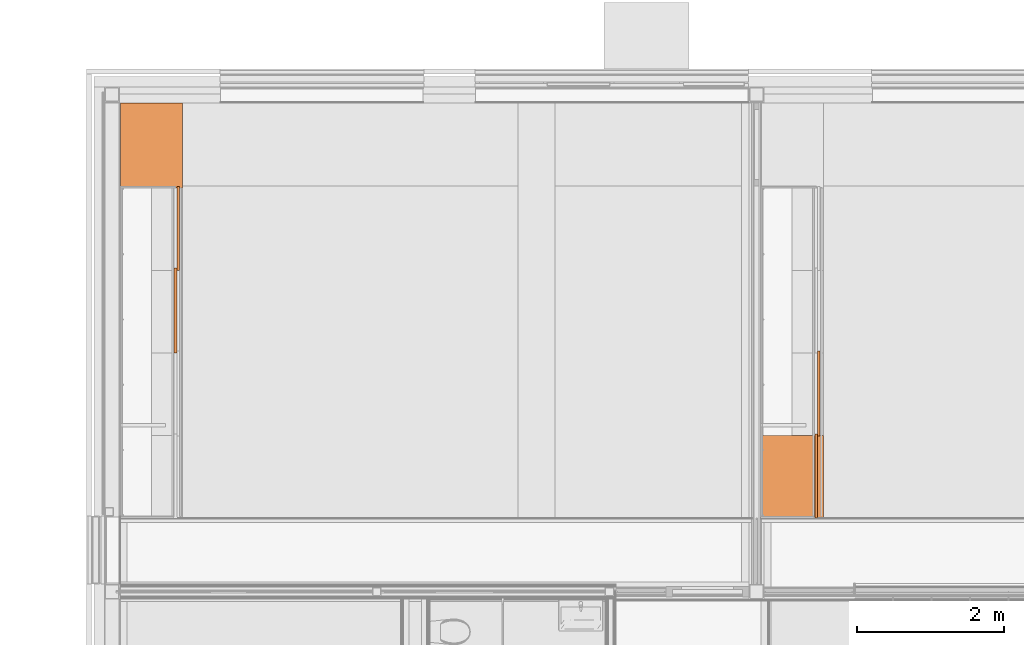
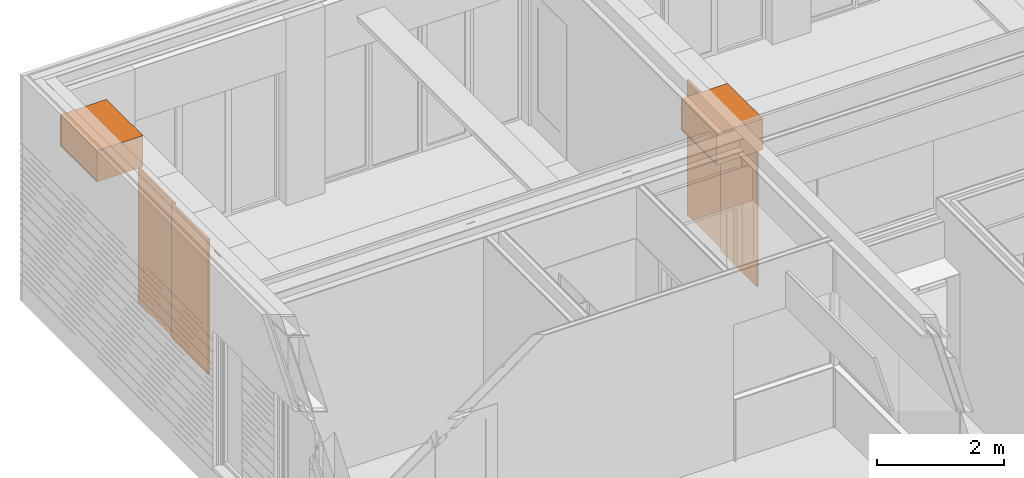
# One storey, part 135 of 165: 6 proxies.
"""IFC2X3 building model written with IfcOpenShell, lengths in millimetres."""

from ifc_helpers import new_model, entity, si_unit, converted_unit, derived_unit, money_unit, direction, frame, origin_with_axes, place, context, subcontext, project, spatial, faceted_brep, source, transform, mapped, type_object, type_shapes, element, save


model = new_model("IFC2X3")

# Units and contexts
model_context = context("Model", 3, precision=0.01, world=origin_with_axes(), true_north=direction((0.0, 1.0)))
body_context = subcontext(model_context, "Body", "Model", "MODEL_VIEW")
ifc_project = project(units=[si_unit("LENGTHUNIT", "METRE", prefix="MILLI"), si_unit("AREAUNIT", "SQUARE_METRE"), si_unit("VOLUMEUNIT", "CUBIC_METRE"), converted_unit("PLANEANGLEUNIT", "DEGREE", entity("IfcPlaneAngleMeasure", 0.0174532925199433), si_unit("PLANEANGLEUNIT", "RADIAN"), dimensions=[0, 0, 0, 0, 0, 0, 0]), money_unit("EUR"), converted_unit("TIMEUNIT", "Year", entity("IfcTimeMeasure", 31556926.0), si_unit("TIMEUNIT", "SECOND"), dimensions=[0, 0, 1, 0, 0, 0, 0]), si_unit("MASSUNIT", "GRAM", prefix="KILO"), si_unit("THERMODYNAMICTEMPERATUREUNIT", "DEGREE_CELSIUS"), si_unit("LUMINOUSINTENSITYUNIT", "LUMEN"), si_unit("ENERGYUNIT", "JOULE", prefix="MEGA"), derived_unit("THERMALCONDUCTANCEUNIT", [(si_unit("POWERUNIT", "WATT"), 1), (si_unit("LENGTHUNIT", "METRE"), -1), (si_unit("THERMODYNAMICTEMPERATUREUNIT", "KELVIN"), -1)]), derived_unit("SPECIFICHEATCAPACITYUNIT", [(si_unit("ENERGYUNIT", "JOULE"), 1), (si_unit("MASSUNIT", "GRAM", prefix="KILO"), -1), (si_unit("THERMODYNAMICTEMPERATUREUNIT", "KELVIN"), -1)]), derived_unit("MASSDENSITYUNIT", [(si_unit("MASSUNIT", "GRAM", prefix="KILO"), 1), (si_unit("VOLUMEUNIT", "CUBIC_METRE"), -1)])], contexts=[model_context])

# Site, building, storey
site_placement = place(None, origin_with_axes())
site = spatial("IfcSite", under=ifc_project, at=site_placement, Name="Site", CompositionType="ELEMENT")
building_placement = place(site_placement, origin_with_axes())
building = spatial("IfcBuilding", under=site, at=building_placement, Name="Naam gebouw", CompositionType="ELEMENT")
storey_placement = place(building_placement, origin_with_axes())
storey = spatial("IfcBuildingStorey", under=building, at=storey_placement, Name="Begane grond", CompositionType="ELEMENT", Elevation=0.0)

# Proxies
building_element_proxy_type_1 = type_object("IfcBuildingElementProxyType", Name="Onderkast recht 26", PredefinedType="NOTDEFINED")
shared_shape_1 = source(origin_with_axes(), body_context, "Body", "Brep", [
    faceted_brep([(-1.0, -826.9999999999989, 1.0), (-1.0, -844.9999999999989, 1.000000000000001), (-1152.000152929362, -844.9999999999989, 1.000000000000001), (-1152.000152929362, -826.9999999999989, 1.0), (-1.0, -826.9999999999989, 599.0), (-1.0, -844.9999999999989, 599.0), (-1152.000152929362, -844.9999999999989, 599.0), (-1152.000152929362, -826.9999999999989, 599.0)], [[[0, 1, 2, 3]], [[4, 5, 1, 0]], [[1, 5, 6, 2]], [[3, 2, 6, 7]], [[0, 3, 7, 4]], [[7, 6, 5, 4]]]),
    faceted_brep([(-18.0, -826.9999999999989, 0.0), (-18.0, -826.9999999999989, 18.0), (-1135.000152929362, -826.9999999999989, 18.0), (-1135.000152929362, -826.9999999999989, 0.0), (-18.0, 0.0, 0.0), (-18.0, 0.0, 18.0), (-1135.000152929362, 0.0, 18.0), (-1135.000152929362, 0.0, 0.0)], [[[0, 1, 2, 3]], [[4, 5, 1, 0]], [[1, 5, 6, 2]], [[3, 2, 6, 7]], [[0, 3, 7, 4]], [[7, 6, 5, 4]]]),
    faceted_brep([(-18.0, -826.9999999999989, 582.0), (-18.0, -826.9999999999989, 600.0), (-1135.000152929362, -826.9999999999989, 600.0), (-1135.000152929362, -826.9999999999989, 582.0), (-18.0, 0.0, 582.0), (-18.0, 0.0, 600.0), (-1135.000152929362, 0.0, 600.0), (-1135.000152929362, 0.0, 582.0)], [[[0, 1, 2, 3]], [[4, 5, 1, 0]], [[1, 5, 6, 2]], [[3, 2, 6, 7]], [[0, 3, 7, 4]], [[7, 6, 5, 4]]]),
    faceted_brep([(0.0, 0.0, 0.0), (0.0, 0.0, 600.0), (0.0, -826.9999999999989, 600.0), (0.0, -826.9999999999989, 0.0), (-18.0, 0.0, 0.0), (-18.0, 0.0, 600.0), (-18.0, -826.9999999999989, 600.0), (-18.0, -826.9999999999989, 0.0)], [[[0, 1, 2, 3]], [[4, 5, 1, 0]], [[1, 5, 6, 2]], [[3, 2, 6, 7]], [[0, 3, 7, 4]], [[7, 6, 5, 4]]]),
    faceted_brep([(-1153.000152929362, -826.9999999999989, 0.0), (-1153.000152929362, -826.9999999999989, 600.0), (-1153.000152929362, 0.0, 600.0), (-1153.000152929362, 0.0, 0.0), (-1135.000152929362, -826.9999999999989, 0.0), (-1135.000152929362, -826.9999999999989, 600.0), (-1135.000152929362, 0.0, 600.0), (-1135.000152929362, 0.0, 0.0)], [[[0, 1, 2, 3]], [[4, 5, 1, 0]], [[1, 5, 6, 2]], [[3, 2, 6, 7]], [[0, 3, 7, 4]], [[7, 6, 5, 4]]]),
    faceted_brep([(-1135.000152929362, -9.0, 18.0), (-1135.000152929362, -9.0, 582.0), (-18.00000000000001, -9.0, 582.0), (-18.00000000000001, -9.0, 18.0), (-1135.000152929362, -18.0, 18.0), (-1135.000152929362, -18.0, 582.0), (-18.00000000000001, -18.0, 582.0), (-18.00000000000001, -18.0, 18.0)], [[[0, 1, 2, 3]], [[4, 5, 1, 0]], [[1, 5, 6, 2]], [[3, 2, 6, 7]], [[0, 3, 7, 4]], [[7, 6, 5, 4]]]),
])
proxy_1_placement = place(storey_placement, frame((214.0000000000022, 28961.0, 2600.0), z_axis=(0.0, 0.0, 1.0), x_axis=(0.0, 1.0, 0.0)))
element("IfcBuildingElementProxy", 1, at=proxy_1_placement, inside=storey, type_object=building_element_proxy_type_1, Name="_Leeg", context=body_context, shape_type="MappedRepresentation", body=[
    mapped(shared_shape_1, transform((0.0, 0.0, 0.0))),
])
building_element_proxy_type_2 = type_object("IfcBuildingElementProxyType", Name="gevelbekleding", PredefinedType="NOTDEFINED")
shared_shape_2 = source(origin_with_axes(), body_context, "Body", "Brep", [
    faceted_brep([(577.5, 0.0, 0.0), (577.5, -35.0, 0.0), (572.5, -35.0, 0.0), (572.5, 0.0, 0.0), (577.5, 0.0, 2600.0), (577.5, -35.0, 2600.0), (572.5, -35.0, 2600.0), (572.5, 0.0, 2600.0)], [[[0, 1, 2, 3]], [[4, 5, 1, 0]], [[1, 5, 6, 2]], [[3, 2, 6, 7]], [[0, 3, 7, 4]], [[7, 6, 5, 4]]]),
    faceted_brep([(-577.5, 0.0, 0.0), (-577.5, -35.0, 0.0), (-577.5, -35.0, 2600.0), (-577.5, 0.0, 2600.0), (-572.5000000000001, 0.0, 0.0), (-572.5000000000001, -35.0, 0.0), (-572.5000000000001, -35.0, 2600.0), (-572.5000000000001, 0.0, 2600.0)], [[[0, 1, 2, 3]], [[4, 5, 1, 0]], [[1, 5, 6, 2]], [[3, 2, 6, 7]], [[0, 3, 7, 4]], [[7, 6, 5, 4]]]),
    faceted_brep([(577.5, 0.0, 0.0), (577.5, -35.0, 0.0), (-577.5, -35.0, 0.0), (-577.5, 0.0, 0.0), (577.5, 0.0, 2600.0), (577.5, -35.0, 2600.0), (-577.5, -35.0, 2600.0), (-577.5, 0.0, 2600.0)], [[[0, 1, 2, 3]], [[4, 5, 1, 0]], [[1, 5, 6, 2]], [[3, 2, 6, 7]], [[0, 3, 7, 4]], [[7, 6, 5, 4]]]),
])
proxy_2_placement = place(storey_placement, frame((9712.500000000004, 25592.99991880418, 0.0), z_axis=(0.0, 0.0, 1.0), x_axis=(0.0, -1.0, 0.0)))
element("IfcBuildingElementProxy", 2, at=proxy_2_placement, inside=storey, type_object=building_element_proxy_type_2, Name="_-", context=body_context, shape_type="MappedRepresentation", body=[
    mapped(shared_shape_2, transform((577.5000000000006, 0.0, 0.0))),
])
shared_shape_3 = source(origin_with_axes(), body_context, "Body", "Brep", [
    faceted_brep([(-570.0, 0.0, 0.0), (-565.0, 0.0, 0.0), (-565.0, -35.0, 0.0), (-570.0, -35.0, 0.0), (-570.0, 0.0, 2600.0), (-565.0, 0.0, 2600.0), (-565.0, -35.0, 2600.0), (-570.0, -35.0, 2600.0)], [[[0, 1, 2, 3]], [[0, 4, 5, 1]], [[1, 5, 6, 2]], [[3, 2, 6, 7]], [[4, 0, 3, 7]], [[5, 4, 7, 6]]]),
    faceted_brep([(570.0, 0.0, 0.0), (570.0, 0.0, 2600.0), (570.0, -35.0, 2600.0), (570.0, -35.0, 0.0), (565.0000000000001, 0.0, 0.0), (565.0000000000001, 0.0, 2600.0), (565.0000000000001, -35.0, 2600.0), (565.0000000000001, -35.0, 0.0)], [[[0, 1, 2, 3]], [[0, 4, 5, 1]], [[1, 5, 6, 2]], [[3, 2, 6, 7]], [[4, 0, 3, 7]], [[5, 4, 7, 6]]]),
    faceted_brep([(-570.0, 0.0, 0.0), (570.0, 0.0, 0.0), (570.0, -35.0, 0.0), (-570.0, -35.0, 0.0), (-570.0, 0.0, 2600.0), (570.0, 0.0, 2600.0), (570.0, -35.0, 2600.0), (-570.0, -35.0, 2600.0)], [[[0, 1, 2, 3]], [[0, 4, 5, 1]], [[1, 5, 6, 2]], [[3, 2, 6, 7]], [[4, 0, 3, 7]], [[5, 4, 7, 6]]]),
])
proxy_3_placement = place(storey_placement, frame((9712.500000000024, 24467.99984810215, 0.0), z_axis=(0.0, 0.0, 1.0), x_axis=(0.0, -1.0, 0.0)))
element("IfcBuildingElementProxy", 3, at=proxy_3_placement, inside=storey, type_object=building_element_proxy_type_2, Name="_-", context=body_context, shape_type="MappedRepresentation", body=[
    mapped(shared_shape_3, transform((570.0000000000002, -34.99999999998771, 0.0))),
])
shared_shape_4 = source(origin_with_axes(), body_context, "Body", "Brep", [
    faceted_brep([(570.0000707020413, 0.0, 0.0), (570.0000707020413, -35.0, 0.0), (565.0000707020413, -35.0, 0.0), (565.0000707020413, 0.0, 0.0), (570.0000707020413, 0.0, 2600.0), (570.0000707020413, -35.0, 2600.0), (565.0000707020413, -35.0, 2600.0), (565.0000707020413, 0.0, 2600.0)], [[[0, 1, 2, 3]], [[4, 5, 1, 0]], [[1, 5, 6, 2]], [[3, 2, 6, 7]], [[0, 3, 7, 4]], [[7, 6, 5, 4]]]),
    faceted_brep([(-570.0000707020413, 0.0, 0.0), (-570.0000707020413, -35.0, 0.0), (-570.0000707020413, -35.0, 2600.0), (-570.0000707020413, 0.0, 2600.0), (-565.0000707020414, 0.0, 0.0), (-565.0000707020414, -35.0, 0.0), (-565.0000707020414, -35.0, 2600.0), (-565.0000707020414, 0.0, 2600.0)], [[[0, 1, 2, 3]], [[4, 5, 1, 0]], [[1, 5, 6, 2]], [[3, 2, 6, 7]], [[0, 3, 7, 4]], [[7, 6, 5, 4]]]),
    faceted_brep([(570.0000707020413, 0.0, 0.0), (570.0000707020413, -35.0, 0.0), (-570.0000707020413, -35.0, 0.0), (-570.0000707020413, 0.0, 0.0), (570.0000707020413, 0.0, 2600.0), (570.0000707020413, -35.0, 2600.0), (-570.0000707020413, -35.0, 2600.0), (-570.0000707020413, 0.0, 2600.0)], [[[0, 1, 2, 3]], [[4, 5, 1, 0]], [[1, 5, 6, 2]], [[3, 2, 6, 7]], [[0, 3, 7, 4]], [[7, 6, 5, 4]]]),
])
proxy_4_placement = place(storey_placement, frame((1014.000000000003, 27827.99984229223, 0.0), z_axis=(0.0, 0.0, 1.0), x_axis=(0.0, -1.0, 0.0)))
element("IfcBuildingElementProxy", 4, at=proxy_4_placement, inside=storey, type_object=building_element_proxy_type_2, Name="_-", context=body_context, shape_type="MappedRepresentation", body=[
    mapped(shared_shape_4, transform((570.00007070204, 0.0, 0.0))),
])
shared_shape_5 = source(origin_with_axes(), body_context, "Body", "Brep", [
    faceted_brep([(-577.5, 0.0, 0.0), (-572.5, 0.0, 0.0), (-572.5, -35.0, 0.0), (-577.5, -35.0, 0.0), (-577.5, 0.0, 2600.0), (-572.5, 0.0, 2600.0), (-572.5, -35.0, 2600.0), (-577.5, -35.0, 2600.0)], [[[0, 1, 2, 3]], [[0, 4, 5, 1]], [[1, 5, 6, 2]], [[3, 2, 6, 7]], [[4, 0, 3, 7]], [[5, 4, 7, 6]]]),
    faceted_brep([(577.5, 0.0, 0.0), (577.5, 0.0, 2600.0), (577.5, -35.0, 2600.0), (577.5, -35.0, 0.0), (572.5000000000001, 0.0, 0.0), (572.5000000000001, 0.0, 2600.0), (572.5000000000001, -35.0, 2600.0), (572.5000000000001, -35.0, 0.0)], [[[0, 1, 2, 3]], [[0, 4, 5, 1]], [[1, 5, 6, 2]], [[3, 2, 6, 7]], [[4, 0, 3, 7]], [[5, 4, 7, 6]]]),
    faceted_brep([(-577.5, 0.0, 0.0), (577.5, 0.0, 0.0), (577.5, -35.0, 0.0), (-577.5, -35.0, 0.0), (-577.5, 0.0, 2600.0), (577.5, 0.0, 2600.0), (577.5, -35.0, 2600.0), (-577.5, -35.0, 2600.0)], [[[0, 1, 2, 3]], [[0, 4, 5, 1]], [[1, 5, 6, 2]], [[3, 2, 6, 7]], [[4, 0, 3, 7]], [[5, 4, 7, 6]]]),
])
type_shapes(building_element_proxy_type_2, [shared_shape_2, shared_shape_3, shared_shape_4, shared_shape_5])
proxy_5_placement = place(storey_placement, frame((1014.00000000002, 26717.99977159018, 0.0), z_axis=(0.0, 0.0, 1.0), x_axis=(0.0, -1.0, 0.0)))
element("IfcBuildingElementProxy", 5, at=proxy_5_placement, inside=storey, type_object=building_element_proxy_type_2, Name="_-", context=body_context, shape_type="MappedRepresentation", body=[
    mapped(shared_shape_5, transform((577.499999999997, -34.99999999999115, 0.0))),
])
shared_shape_6 = source(origin_with_axes(), body_context, "Body", "Brep", [
    faceted_brep([(-1.0, -827.0, 1.0), (-1.0, -845.0, 1.000000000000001), (-1119.000141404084, -845.0, 1.000000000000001), (-1119.000141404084, -827.0, 1.0), (-1.0, -827.0, 599.0), (-1.0, -845.0, 599.0), (-1119.000141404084, -845.0, 599.0), (-1119.000141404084, -827.0, 599.0)], [[[0, 1, 2, 3]], [[4, 5, 1, 0]], [[1, 5, 6, 2]], [[3, 2, 6, 7]], [[0, 3, 7, 4]], [[7, 6, 5, 4]]]),
    faceted_brep([(-18.0, -827.0, 0.0), (-18.0, -827.0, 18.0), (-1102.000141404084, -827.0, 18.0), (-1102.000141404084, -827.0, 0.0), (-18.0, 0.0, 0.0), (-18.0, 0.0, 18.0), (-1102.000141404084, 0.0, 18.0), (-1102.000141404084, 0.0, 0.0)], [[[0, 1, 2, 3]], [[4, 5, 1, 0]], [[1, 5, 6, 2]], [[3, 2, 6, 7]], [[0, 3, 7, 4]], [[7, 6, 5, 4]]]),
    faceted_brep([(-18.0, -827.0, 582.0), (-18.0, -827.0, 600.0), (-1102.000141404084, -827.0, 600.0), (-1102.000141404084, -827.0, 582.0), (-18.0, 0.0, 582.0), (-18.0, 0.0, 600.0), (-1102.000141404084, 0.0, 600.0), (-1102.000141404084, 0.0, 582.0)], [[[0, 1, 2, 3]], [[4, 5, 1, 0]], [[1, 5, 6, 2]], [[3, 2, 6, 7]], [[0, 3, 7, 4]], [[7, 6, 5, 4]]]),
    faceted_brep([(0.0, 0.0, 0.0), (0.0, 0.0, 600.0), (0.0, -827.0, 600.0), (0.0, -827.0, 0.0), (-18.0, 0.0, 0.0), (-18.0, 0.0, 600.0), (-18.0, -827.0, 600.0), (-18.0, -827.0, 0.0)], [[[0, 1, 2, 3]], [[4, 5, 1, 0]], [[1, 5, 6, 2]], [[3, 2, 6, 7]], [[0, 3, 7, 4]], [[7, 6, 5, 4]]]),
    faceted_brep([(-1120.000141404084, -827.0, 0.0), (-1120.000141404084, -827.0, 600.0), (-1120.000141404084, 0.0, 600.0), (-1120.000141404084, 0.0, 0.0), (-1102.000141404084, -827.0, 0.0), (-1102.000141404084, -827.0, 600.0), (-1102.000141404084, 0.0, 600.0), (-1102.000141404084, 0.0, 0.0)], [[[0, 1, 2, 3]], [[4, 5, 1, 0]], [[1, 5, 6, 2]], [[3, 2, 6, 7]], [[0, 3, 7, 4]], [[7, 6, 5, 4]]]),
    faceted_brep([(-1102.000141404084, -9.0, 18.0), (-1102.000141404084, -9.0, 582.0), (-18.00000000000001, -9.0, 582.0), (-18.00000000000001, -9.0, 18.0), (-1102.000141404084, -18.0, 18.0), (-1102.000141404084, -18.0, 582.0), (-18.00000000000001, -18.0, 582.0), (-18.00000000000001, -18.0, 18.0)], [[[0, 1, 2, 3]], [[4, 5, 1, 0]], [[1, 5, 6, 2]], [[3, 2, 6, 7]], [[0, 3, 7, 4]], [[7, 6, 5, 4]]]),
])
type_shapes(building_element_proxy_type_1, [shared_shape_1, shared_shape_6])
proxy_6_placement = place(storey_placement, frame((8912.500000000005, 24447.99942285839, 2600.0), z_axis=(0.0, 0.0, 1.0), x_axis=(0.0, 1.0, 0.0)))
element("IfcBuildingElementProxy", 6, at=proxy_6_placement, inside=storey, type_object=building_element_proxy_type_1, Name="_Leeg", context=body_context, shape_type="MappedRepresentation", body=[
    mapped(shared_shape_6, transform((0.0, 0.0, 0.0))),
])

save(model, "model.ifc")
